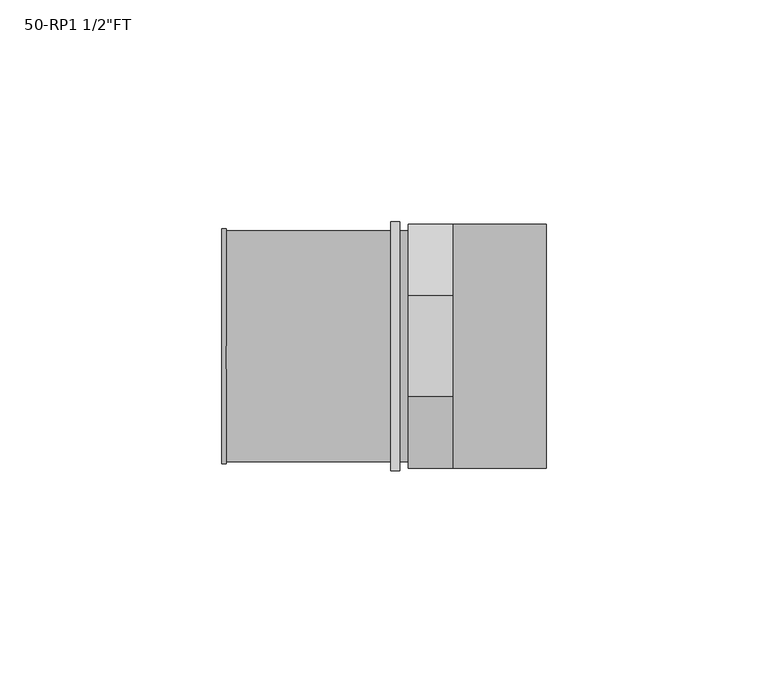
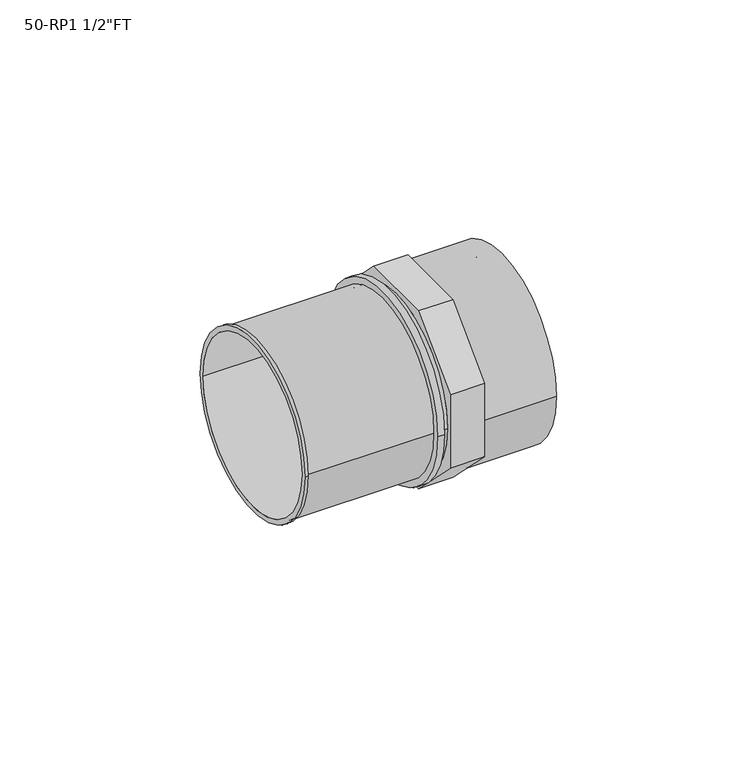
"""IFC4 building model written with IfcOpenShell, lengths in millimetres: pipe fitting geometry."""

import ifcopenshell
import ifcopenshell.guid

model = None  # the IFC model being written
_history = None  # IfcOwnerHistory: only IFC2X3 demands one
_inside = {}  # id of a spatial element -> (the spatial element, [elements in it])
_under = {}  # id of a project, library or spatial element -> (it, [spatial elements below it])
_declared = {}  # id of a project -> (the project, [libraries it declares])
_typed = {}  # id of a type object -> (the type object, [elements of that type])
_made_of = {}  # id of a material, layer set ... -> (it, [elements and type objects made of it])


def new_model(schema):
    """Start an empty IFC model of exactly this schema.

    Asked for "IFC4X3", IfcOpenShell would pick the latest addendum, in which some entities
    have other attributes; the version numbers below select the first issue.
    IFC2X3 requires an IfcOwnerHistory on every rooted entity: one is made here for all.
    """
    global model, _history
    if schema == "IFC4X3":
        model = ifcopenshell.file(schema_version=(4, 3, 0, 0))
    else:
        model = ifcopenshell.file(schema=schema)
    _inside.clear()
    _under.clear()
    _declared.clear()
    _typed.clear()
    _made_of.clear()
    _history = None
    if model.schema == "IFC2X3":
        org = make("IfcOrganization", Name="unknown")
        user = make(
            "IfcPersonAndOrganization",
            ThePerson=make("IfcPerson", FamilyName="unknown"),
            TheOrganization=org,
        )
        app = make(
            "IfcApplication",
            ApplicationDeveloper=org,
            Version="unknown",
            ApplicationFullName="unknown",
            ApplicationIdentifier="unknown",
        )
        _history = make(
            "IfcOwnerHistory",
            OwningUser=user,
            OwningApplication=app,
            ChangeAction="ADDED",
            CreationDate=0,
        )
    return model


def make(cls, **values):
    """One entity of the class cls with the attributes given. An attribute that is None is left unset."""
    return model.create_entity(
        cls, **{name: value for name, value in values.items() if value is not None}
    )


def rooted(cls, **values):
    """An entity with a GlobalId (a new one), such as an element, a storey or a relation."""
    return make(cls, GlobalId=ifcopenshell.guid.new(), OwnerHistory=_history, **values)


def si_unit(unit_type, name, prefix=None):
    """IfcSIUnit, for example si_unit("LENGTHUNIT", "METRE", prefix="MILLI")."""
    return make("IfcSIUnit", UnitType=unit_type, Prefix=prefix, Name=name)


def assignment(units):
    """IfcUnitAssignment: the units of a project."""
    return None if units is None else make("IfcUnitAssignment", Units=units)


def point(xyz):
    """IfcCartesianPoint."""
    return None if xyz is None else make("IfcCartesianPoint", Coordinates=xyz)


def direction(xyz):
    """IfcDirection."""
    return None if xyz is None else make("IfcDirection", DirectionRatios=xyz)


def frame(location, z_axis=None, x_axis=None):
    """IfcAxis2Placement3D, a coordinate frame: its origin and axes. An axis left out is left unset."""
    return make(
        "IfcAxis2Placement3D",
        Location=point(location),
        Axis=direction(z_axis),
        RefDirection=direction(x_axis),
    )


def frame_2d(location, x_axis=None):
    """IfcAxis2Placement2D, a coordinate frame in the plane: its origin and x axis."""
    return make(
        "IfcAxis2Placement2D", Location=point(location), RefDirection=direction(x_axis)
    )


def origin():
    """The frame at (0, 0, 0) with its axes left unset."""
    return frame((0.0, 0.0, 0.0))


def origin_2d():
    """The frame at (0, 0) in the plane with its x axis left unset."""
    return frame_2d((0.0, 0.0))


def place(relative_to, where):
    """IfcLocalPlacement: puts the frame where relative to a parent placement (None: the world)."""
    return make(
        "IfcLocalPlacement", PlacementRelTo=relative_to, RelativePlacement=where
    )


def context(
    kind, dimensions, precision=None, world=None, true_north=None, identifier=None
):
    """IfcGeometricRepresentationContext, for example the 3D "Model" context."""
    return make(
        "IfcGeometricRepresentationContext",
        ContextIdentifier=identifier,
        ContextType=kind,
        CoordinateSpaceDimension=dimensions,
        Precision=precision,
        WorldCoordinateSystem=world,
        TrueNorth=true_north,
    )


def project(units=None, contexts=None):
    """IfcProject with its units and contexts."""
    return rooted(
        "IfcProject",
        Name="project",
        RepresentationContexts=contexts,
        UnitsInContext=assignment(units),
    )


def spatial(cls, under=None, at=None, **own):
    """A site, building, storey or space (cls), placed at a placement, below another one or the project."""
    s = rooted(cls, ObjectPlacement=at, **own)
    if under is not None:
        _under.setdefault(under.id(), (under, []))[1].append(s)
    return s


def polyline(points):
    """IfcPolyline through the points."""
    return make("IfcPolyline", Points=[point(p) for p in points])


def circle_curve(where, radius):
    """IfcCircle in the frame where."""
    return make("IfcCircle", Position=where, Radius=radius)


def trimmed(basis, trim1, trim2, sense, master):
    """IfcTrimmedCurve: the piece of a basis curve between two trims."""
    return make(
        "IfcTrimmedCurve",
        BasisCurve=basis,
        Trim1=trim1,
        Trim2=trim2,
        SenseAgreement=sense,
        MasterRepresentation=master,
    )


def segment(curve, same_sense, transition):
    """IfcCompositeCurveSegment."""
    return make(
        "IfcCompositeCurveSegment",
        Transition=transition,
        SameSense=same_sense,
        ParentCurve=curve,
    )


def composite_curve(segments, self_intersect=None):
    """IfcCompositeCurve: segments joined end to end."""
    return make("IfcCompositeCurve", Segments=segments, SelfIntersect=self_intersect)


def outline(outer, holes=None, kind="AREA"):
    """IfcArbitraryClosedProfileDef: a profile drawn as a closed curve; with holes, ...WithVoids."""
    if holes is None:
        return make("IfcArbitraryClosedProfileDef", ProfileType=kind, OuterCurve=outer)
    return make(
        "IfcArbitraryProfileDefWithVoids",
        ProfileType=kind,
        OuterCurve=outer,
        InnerCurves=holes,
    )


def extrude(swept, where, along, depth):
    """IfcExtrudedAreaSolid: the profile swept, set in the frame where, extruded along a direction by depth."""
    return make(
        "IfcExtrudedAreaSolid",
        SweptArea=swept,
        Position=where,
        ExtrudedDirection=direction(along),
        Depth=depth,
    )


def shape(context_of_items, identifier, shape_type, items):
    """IfcShapeRepresentation: the items that make up one representation, for example the "Body"."""
    return make(
        "IfcShapeRepresentation",
        ContextOfItems=context_of_items,
        RepresentationIdentifier=identifier,
        RepresentationType=shape_type,
        Items=items,
    )


def source(mapping_origin, context_of_items, identifier, shape_type, items):
    """IfcRepresentationMap: a shape defined once, which mapped items show again and again."""
    return make(
        "IfcRepresentationMap",
        MappingOrigin=mapping_origin,
        MappedRepresentation=shape(context_of_items, identifier, shape_type, items),
    )


def transform(
    local_origin,
    x_axis=None,
    y_axis=None,
    z_axis=None,
    scale=None,
    scale2=None,
    scale3=None,
    uniform=True,
):
    """IfcCartesianTransformationOperator3D, or its non-uniform kind. x_axis, y_axis, z_axis: its Axis1, 2, 3."""
    if uniform:
        return make(
            "IfcCartesianTransformationOperator3D",
            Axis1=direction(x_axis),
            Axis2=direction(y_axis),
            LocalOrigin=point(local_origin),
            Scale=scale,
            Axis3=direction(z_axis),
        )
    return make(
        "IfcCartesianTransformationOperator3DnonUniform",
        Axis1=direction(x_axis),
        Axis2=direction(y_axis),
        LocalOrigin=point(local_origin),
        Scale=scale,
        Axis3=direction(z_axis),
        Scale2=scale2,
        Scale3=scale3,
    )


def mapped(mapping_source, mapping_target):
    """IfcMappedItem: shows the shape of a source again, moved by a transform."""
    return make(
        "IfcMappedItem", MappingSource=mapping_source, MappingTarget=mapping_target
    )


def made_of(thing, what):
    """Note that an element or type object is made of a material, layer set ...; save() writes the relation."""
    if what is not None:
        _made_of.setdefault(what.id(), (what, []))[1].append(thing)
    return thing


def element(
    cls,
    number,
    at=None,
    inside=None,
    cuts=None,
    type_object=None,
    material=None,
    context=None,
    identifier="Body",
    shape_type=None,
    held_by="IfcProductDefinitionShape",
    body=None,
    shapes=None,
    **own,
):
    """One element of the class cls, such as IfcWall. Its Tag is "e" and its number.

    at: its placement. inside: the storey or other place that contains it. cuts: it is an
    opening in that element (IfcRelVoidsElement). A single representation is given by context,
    identifier, shape_type and body (its items); several are given by shapes. held_by: the class
    of the entity that holds the representations. save() writes the other relations.
    """
    e = rooted(cls, Tag="e%d" % number, ObjectPlacement=at, **own)
    if body is not None:
        shapes = [shape(context, identifier, shape_type, body)]
    if shapes is not None:
        e.Representation = make(held_by, Representations=shapes)
    if inside is not None:
        _inside.setdefault(inside.id(), (inside, []))[1].append(e)
    if cuts is not None:
        rooted(
            "IfcRelVoidsElement", RelatingBuildingElement=cuts, RelatedOpeningElement=e
        )
    if type_object is not None:
        _typed.setdefault(type_object.id(), (type_object, []))[1].append(e)
    return made_of(e, material)


def aggregate(whole, parts):
    """IfcRelAggregates: a whole, such as a stair, and the parts it consists of."""
    return rooted("IfcRelAggregates", RelatingObject=whole, RelatedObjects=parts)


def save(model, path):
    """Write the relations noted so far, then the file.

    IfcRelAggregates (storeys below a building ...), IfcRelContainedInSpatialStructure (elements
    in a storey), IfcRelDefinesByType, IfcRelAssociatesMaterial and IfcRelDeclares: one each for
    every whole, place, type object, material and project.
    """
    for whole, parts in _under.values():
        aggregate(whole, parts)
    for where, things in _inside.values():
        rooted(
            "IfcRelContainedInSpatialStructure",
            RelatedElements=things,
            RelatingStructure=where,
        )
    for kind, things in _typed.values():
        rooted("IfcRelDefinesByType", RelatedObjects=things, RelatingType=kind)
    for what, things in _made_of.values():
        rooted("IfcRelAssociatesMaterial", RelatedObjects=things, RelatingMaterial=what)
    for by, libraries in _declared.values():
        rooted("IfcRelDeclares", RelatingContext=by, RelatedDefinitions=libraries)
    model.write(path)


def plane_surface(at):
    """IfcPlane: the flat surface through the origin of the frame at, square to its z axis."""
    return make("IfcPlane", Position=at)


def cylinder_surface(at, radius):
    """IfcCylindricalSurface: all points at the distance radius from the z axis of the frame at."""
    return make("IfcCylindricalSurface", Position=at, Radius=radius)


def revolved_surface(curve, axis_point, axis_direction):
    """IfcSurfaceOfRevolution: the curve turned about the line through axis_point along axis_direction."""
    return make(
        "IfcSurfaceOfRevolution",
        SweptCurve=make("IfcArbitraryOpenProfileDef", ProfileType="CURVE", Curve=curve),
        AxisPosition=make("IfcAxis1Placement", Location=point(axis_point), Axis=direction(axis_direction)),
    )


def advanced_brep(points, edges, surfaces, faces):
    """IfcAdvancedBrep: a solid bounded by faces that lie on surfaces and meet in shared edges.

    An edge is (start, end): straight between two places in points (the first is 0);
    or (start, end, curve); or (start, end, curve, False) where it runs against its curve.
    A face is (place in surfaces, loops), or (place, loops, False) where it looks against
    its surface's normal. A loop lists edges by number (the first is 1), with a minus sign
    where the edge is run from its end to its start. The first loop is the outer one.
    """
    corners = [point(p) for p in points]
    vertices = [make("IfcVertexPoint", VertexGeometry=c) for c in corners]
    made = []
    for start, end, *more in edges:
        made.append(
            make(
                "IfcEdgeCurve",
                EdgeStart=vertices[start],
                EdgeEnd=vertices[end],
                EdgeGeometry=more[0] if more else make("IfcPolyline", Points=[corners[start], corners[end]]),
                SameSense=more[1] if len(more) > 1 else True,
            )
        )
    hull = []
    for where, loops, *sense in faces:
        bounds = []
        for j, loop in enumerate(loops):
            ring = [make("IfcOrientedEdge", EdgeElement=made[abs(k) - 1], Orientation=k > 0) for k in loop]
            bounds.append(
                make(
                    "IfcFaceOuterBound" if j == 0 else "IfcFaceBound",
                    Bound=make("IfcEdgeLoop", EdgeList=ring),
                    Orientation=True,
                )
            )
        hull.append(make("IfcAdvancedFace", Bounds=bounds, FaceSurface=surfaces[where], SameSense=sense[0] if sense else True))
    return make("IfcAdvancedBrep", Outer=make("IfcClosedShell", CfsFaces=hull))


def pipe_fitting_0a3e55ba(model_context):
    return source(origin(), model_context, "Body", "SolidModel", [
        advanced_brep(
        [(-7.0, -26.0, 0.0), (-7.0, 26.0, 0.0), (5.0, -27.5, 11.390873), (5.0, -27.5, -11.390873), (5.0, -11.390873, -27.5), (5.0, 11.390873, -27.5), (5.0, 27.5, -11.390873), (5.0, 27.5, 11.390873), (5.0, 11.390873, 27.5), (5.0, -11.390873, 27.5), (-5.0, -26.0, 0.0), (-5.0, 26.0, 0.0), (-5.0, -27.5, 11.390873), (-5.0, -11.390873, 27.5), (-5.0, 11.390873, 27.5), (-5.0, 27.5, 11.390873), (-5.0, 27.5, -11.390873), (-5.0, 11.390873, -27.5), (-5.0, -11.390873, -27.5), (-5.0, -27.5, -11.390873)],
        [
            (0, 1, circle_curve(frame((-7.0, 0.0, 0.0), z_axis=(-1.0, 0.0, 0.0), x_axis=(0.0, 1.0, 0.0)), 26.0)),
            (1, 0, circle_curve(frame((-7.0, 0.0, 0.0), z_axis=(-1.0, 0.0, 0.0), x_axis=(0.0, 1.0, 0.0)), 26.0)),
            (2, 3),
            (3, 4),
            (4, 5),
            (5, 6),
            (6, 7),
            (7, 8),
            (8, 9),
            (9, 2),
            (0, 10),
            (10, 11, circle_curve(frame((-5.0, 0.0, 0.0), z_axis=(-1.0, 0.0, 0.0), x_axis=(0.0, 1.0, 0.0)), 26.0)),
            (11, 1),
            (11, 10, circle_curve(frame((-5.0, 0.0, 0.0), z_axis=(-1.0, 0.0, 0.0), x_axis=(0.0, 1.0, 0.0)), 26.0)),
            (12, 13),
            (13, 14),
            (14, 15),
            (15, 16),
            (16, 17),
            (17, 18),
            (18, 19),
            (19, 12),
            (12, 2),
            (9, 13),
            (8, 14),
            (7, 15),
            (6, 16),
            (5, 17),
            (4, 18),
            (3, 19),
        ],
        [
            plane_surface(frame((-7.0, 0.0, 0.0), z_axis=(-1.0, 0.0, 0.0), x_axis=(0.0, 0.0, 1.0))),
            plane_surface(frame((5.0, 0.0, 0.0), z_axis=(1.0, 0.0, 0.0), x_axis=(0.0, 0.0, 1.0))),
            cylinder_surface(frame((-7.0, 0.0, 0.0), z_axis=(-1.0, 0.0, 0.0), x_axis=(0.0, 1.0, 0.0)), 26.0),
            plane_surface(frame((-5.0, 0.0, 0.0), z_axis=(-1.0, 0.0, 0.0), x_axis=(0.0, 0.0, 1.0))),
            plane_surface(frame((-5.0, -27.5, 11.390873), z_axis=(0.0, -0.7071067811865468, 0.7071067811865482), x_axis=(1.0, 0.0, 0.0))),
            plane_surface(frame((-5.0, -11.390873, 27.5), z_axis=(0.0, 0.0, 1.0), x_axis=(1.0, 0.0, 0.0))),
            plane_surface(frame((-5.0, 11.390873, 27.5), z_axis=(0.0, 0.7071067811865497, 0.7071067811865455), x_axis=(1.0, 0.0, 0.0))),
            plane_surface(frame((-5.0, 27.5, 11.390873), z_axis=(0.0, 1.0, 0.0), x_axis=(1.0, 0.0, 0.0))),
            plane_surface(frame((-5.0, 27.5, -11.390873), z_axis=(0.0, 0.7071067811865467, -0.7071067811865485), x_axis=(1.0, 0.0, 0.0))),
            plane_surface(frame((-5.0, 11.390873, -27.5), z_axis=(0.0, 0.0, -1.0), x_axis=(1.0, 0.0, 0.0))),
            plane_surface(frame((-5.0, -11.390873, -27.5), z_axis=(0.0, -0.7071067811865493, -0.7071067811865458), x_axis=(1.0, 0.0, 0.0))),
            plane_surface(frame((-5.0, -27.5, -11.390873), z_axis=(0.0, -1.0, 0.0), x_axis=(1.0, 0.0, 0.0))),
        ],
        [
            (0, [[1, 2]]),
            (1, [[3, 4, 5, 6, 7, 8, 9, 10]]),
            (2, [[-1, 11, 12, 13]]),
            (2, [[-2, -13, 14, -11]]),
            (3, [[15, 16, 17, 18, 19, 20, 21, 22], [-12, -14]]),
            (4, [[-15, 23, -10, 24]]),
            (5, [[-16, -24, -9, 25]]),
            (6, [[-17, -25, -8, 26]]),
            (7, [[-18, -26, -7, 27]]),
            (8, [[-19, -27, -6, 28]]),
            (9, [[-20, -28, -5, 29]]),
            (10, [[-21, -29, -4, 30]]),
            (11, [[-22, -30, -3, -23]]),
        ],
    ),
        advanced_brep(
        [(-47.0, -26.5, 0.0), (-47.0, 26.5, 0.0), (-47.0, -25.0, 0.0), (-47.0, 25.0, 0.0), (-9.0, -26.0, 0.0), (-9.0, 26.0, 0.0), (-9.0, -25.0, 0.0), (-9.0, 25.0, 0.0), (-46.0, 26.0, 0.0), (-46.0, -26.0, 0.0), (-46.0, -26.5, 0.0), (-46.0, 26.5, 0.0)],
        [
            (0, 1, circle_curve(frame((-47.0, 0.0, 0.0), z_axis=(-1.0, 0.0, 0.0), x_axis=(0.0, 1.0, 0.0)), 26.5)),
            (1, 0, circle_curve(frame((-47.0, 0.0, 0.0), z_axis=(-1.0, 0.0, 0.0), x_axis=(0.0, 1.0, 0.0)), 26.5)),
            (2, 3, circle_curve(frame((-47.0, 0.0, 0.0), z_axis=(1.0, 0.0, 0.0), x_axis=(0.0, 1.0, 0.0)), 25.0)),
            (3, 2, circle_curve(frame((-47.0, 0.0, 0.0), z_axis=(1.0, 0.0, 0.0), x_axis=(0.0, 1.0, 0.0)), 25.0)),
            (4, 5, circle_curve(frame((-9.0, 0.0, 0.0), z_axis=(1.0, 0.0, 0.0), x_axis=(0.0, 1.0, 0.0)), 26.0)),
            (5, 4, circle_curve(frame((-9.0, 0.0, 0.0), z_axis=(1.0, 0.0, 0.0), x_axis=(0.0, 1.0, 0.0)), 26.0)),
            (6, 7, circle_curve(frame((-9.0, 0.0, 0.0), z_axis=(-1.0, 0.0, 0.0), x_axis=(0.0, 1.0, 0.0)), 25.0)),
            (7, 6, circle_curve(frame((-9.0, 0.0, 0.0), z_axis=(-1.0, 0.0, 0.0), x_axis=(0.0, 1.0, 0.0)), 25.0)),
            (2, 6),
            (7, 3),
            (5, 8),
            (8, 9, circle_curve(frame((-46.0, 0.0, 0.0), z_axis=(1.0, 0.0, 0.0), x_axis=(0.0, 1.0, 0.0)), 26.0)),
            (9, 4),
            (9, 8, circle_curve(frame((-46.0, 0.0, 0.0), z_axis=(1.0, 0.0, 0.0), x_axis=(0.0, 1.0, 0.0)), 26.0)),
            (10, 11, circle_curve(frame((-46.0, 0.0, 0.0), z_axis=(1.0, 0.0, 0.0), x_axis=(0.0, 1.0, 0.0)), 26.5)),
            (11, 10, circle_curve(frame((-46.0, 0.0, 0.0), z_axis=(1.0, 0.0, 0.0), x_axis=(0.0, 1.0, 0.0)), 26.5)),
            (0, 10),
            (11, 1),
        ],
        [
            plane_surface(frame((-47.0, 0.0, 0.0), z_axis=(-1.0, 0.0, 0.0), x_axis=(0.0, 0.0, 1.0))),
            plane_surface(frame((-9.0, 0.0, 0.0), z_axis=(1.0, 0.0, 0.0), x_axis=(0.0, 0.0, 1.0))),
            revolved_surface(polyline([(-9.0, 25.0, 0.0), (-47.0, 25.0, 0.0)]), (-47.0, 0.0, 0.0), (1.0, 0.0, 0.0)),
            cylinder_surface(frame((-47.0, 0.0, 0.0), z_axis=(-1.0, 0.0, 0.0), x_axis=(0.0, 1.0, 0.0)), 26.0),
            plane_surface(frame((-46.0, 0.0, 0.0), z_axis=(1.0, 0.0, 0.0), x_axis=(0.0, 0.0, 1.0))),
            cylinder_surface(frame((-47.0, 0.0, 0.0), z_axis=(-1.0, 0.0, 0.0), x_axis=(0.0, 1.0, 0.0)), 26.5),
        ],
        [
            (0, [[1, 2], [3, 4]]),
            (1, [[5, 6], [7, 8]]),
            (2, [[-3, 9, -8, 10]]),
            (2, [[-4, -10, -7, -9]]),
            (3, [[-6, 11, 12, 13]]),
            (3, [[-5, -13, 14, -11]]),
            (4, [[15, 16], [-12, -14]]),
            (5, [[-1, 17, -16, 18]]),
            (5, [[-2, -18, -15, -17]]),
        ],
    ),
        extrude(outline(composite_curve([segment(trimmed(circle_curve(origin_2d(), 27.5), [point((-27.5, 0.0))], [point((27.5, 0.0))], False, "CARTESIAN"), True, "CONTINUOUS"), segment(trimmed(circle_curve(origin_2d(), 27.5), [point((27.5, 0.0))], [point((-27.5, 0.0))], False, "CARTESIAN"), True, "CONTINUOUS")], self_intersect=False), holes=[composite_curve([segment(trimmed(circle_curve(origin_2d(), 22.5), [point((-22.5, 0.0))], [point((22.5, 0.0))], True, "CARTESIAN"), True, "CONTINUOUS"), segment(trimmed(circle_curve(origin_2d(), 22.5), [point((22.5, 0.0))], [point((-22.5, 0.0))], True, "CARTESIAN"), True, "CONTINUOUS")], self_intersect=False)]), frame((5.0, 0.0, 0.0), z_axis=(1.0, 0.0, 0.0), x_axis=(0.0, 1.0, 0.0)), (0.0, 0.0, 1.0), 21.0),
        extrude(outline(composite_curve([segment(trimmed(circle_curve(origin_2d(), 28.0), [point((-28.0, 0.0))], [point((28.0, 0.0))], False, "CARTESIAN"), True, "CONTINUOUS"), segment(trimmed(circle_curve(origin_2d(), 28.0), [point((28.0, 0.0))], [point((-28.0, 0.0))], False, "CARTESIAN"), True, "CONTINUOUS")], self_intersect=False), holes=[composite_curve([segment(trimmed(circle_curve(origin_2d(), 25.0), [point((-25.0, 0.0))], [point((25.0, 0.0))], True, "CARTESIAN"), True, "CONTINUOUS"), segment(trimmed(circle_curve(origin_2d(), 25.0), [point((25.0, 0.0))], [point((-25.0, 0.0))], True, "CARTESIAN"), True, "CONTINUOUS")], self_intersect=False)]), frame((-9.0, 0.0, 0.0), z_axis=(1.0, 0.0, 0.0), x_axis=(0.0, 1.0, 0.0)), (0.0, 0.0, 1.0), 2.0),
    ])


if __name__ == "__main__":
    model = new_model("IFC4")
    model_context = context("Model", 3, world=origin())
    ifc_project = project(units=[si_unit("LENGTHUNIT", "METRE", prefix="MILLI")], contexts=[model_context])
    site = spatial("IfcSite", under=ifc_project)
    building = spatial("IfcBuilding", under=site)
    placement = place(None, origin())
    pipe_fitting_shape = pipe_fitting_0a3e55ba(model_context)
    element("IfcPipeFitting", 1, ObjectType="SuperPipe_AdapterFT_SPress_RP : 50-RP1 1/2\"FT", at=placement, inside=building, context=model_context, shape_type="MappedRepresentation", body=[
        mapped(pipe_fitting_shape, transform((0.0, 0.0, 0.0), x_axis=(1.0, 0.0, 0.0), y_axis=(0.0, 1.0, 0.0), z_axis=(0.0, 0.0, 1.0))),
    ])
    save(model, "model.ifc")
